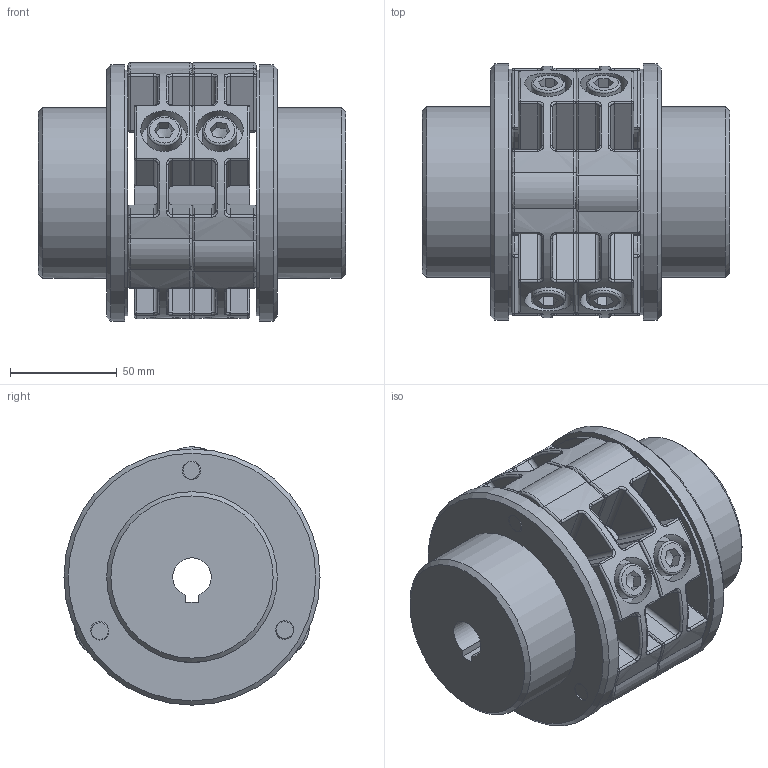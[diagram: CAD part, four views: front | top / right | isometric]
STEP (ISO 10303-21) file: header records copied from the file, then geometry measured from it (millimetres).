
FILE_DESCRIPTION(/* description */ (''),/* implementation_level */ '2;1');
FILE_NAME(/* name */ 'GX08-L60-18-PF-18-PF',/* time_stamp */ '2024-01-05T15:34:45+01:00',/* author */ ('M. Horlacher'),/* organization */ (''),/* preprocessor_version */ 'ST-DEVELOPER v20',/* originating_system */ 'Autodesk Inventor 2024',/* authorisation */ '');
FILE_SCHEMA (('AUTOMOTIVE_DESIGN { 1 0 10303 214 3 1 1 }'));
Length unit declared in the file: millimetre
Products named in the file (8): RP STEP; VE Rohr Dummy; GX08-Nabe; GX08 Befestigungssatz ST; 080305-1410s; 100305-1058s; ISO 4762 - M10 x 30 - 8.8 - VZ A1A; GX08-Nabe_1
Assembly tree (13 placements, depth 3):
  RP STEP
    VE Rohr Dummy
    GX08 Befestigungssatz ST  x2
      080305-1410s
      100305-1058s
      ISO 4762 - M10 x 30 - 8.8 - VZ A1A
    GX08-Nabe
    GX08-Nabe_1
Bounding box: 144 x 120 x 120.98 mm (x, y, z)
Volume: 923269.8 mm3; surface area: 219645.3 mm2
Topology: 19 solids, 19 shells, 886 faces, 2098 edges, 1180 vertices
Faces by surface type: cylinder 282, plane 238, torus 144, sphere 96, bspline 96, cone 30
Full cylindrical faces by diameter (mm): 6.647 x2, 8.376 x12, 10 x24, 16 x18, 22 x6, 36 x2, 57 x3, 60 x3, 80 x2, 115 x2, 120 x2
Entity records: 13007 total; most frequent: CARTESIAN_POINT 4118, DIRECTION 1883, ORIENTED_EDGE 1728, EDGE_CURVE 864, AXIS2_PLACEMENT_3D 805, VERTEX_POINT 500, EDGE_LOOP 440, CIRCLE 440
